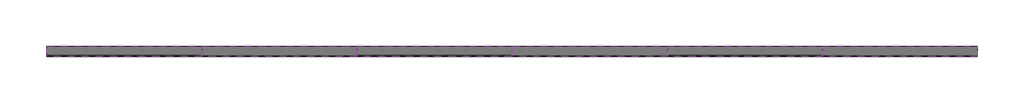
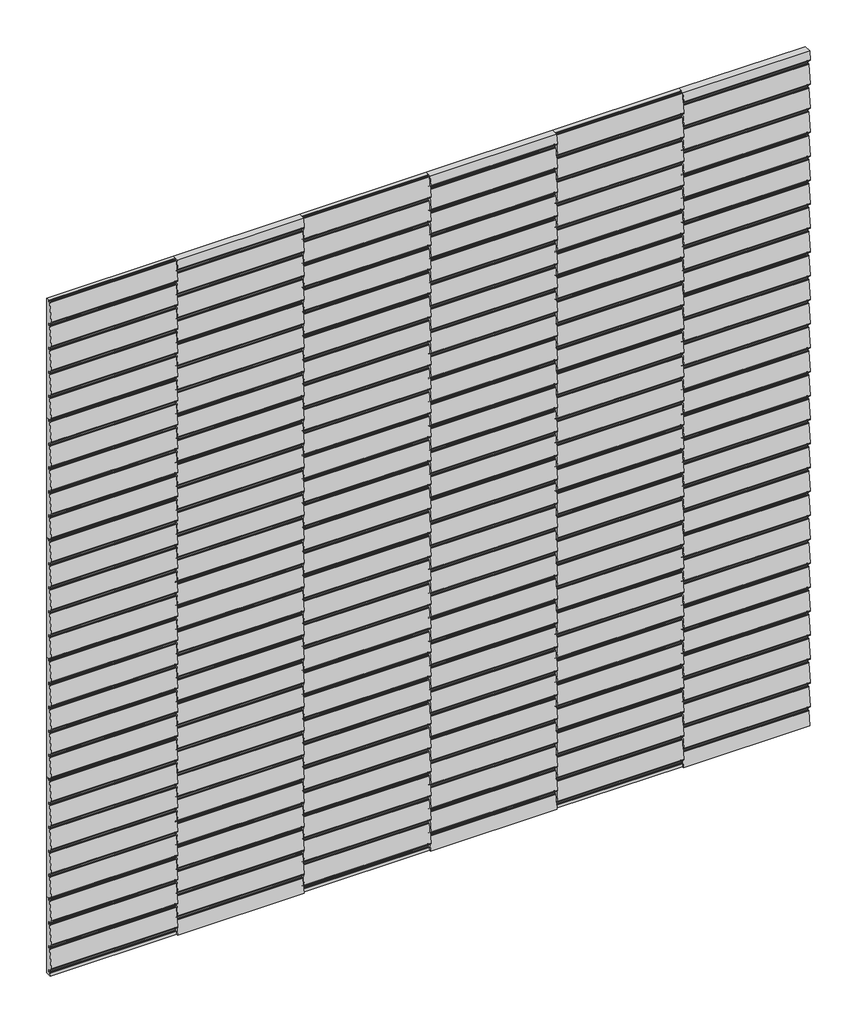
# One storey: 36 proxies.
"""IFC4 building model written with IfcOpenShell, lengths in millimetres."""

import ifcopenshell
import ifcopenshell.guid

model = None  # the IFC model being written
_history = None  # IfcOwnerHistory: only IFC2X3 demands one
_inside = {}  # id of a spatial element -> (the spatial element, [elements in it])
_under = {}  # id of a project, library or spatial element -> (it, [spatial elements below it])
_declared = {}  # id of a project -> (the project, [libraries it declares])
_typed = {}  # id of a type object -> (the type object, [elements of that type])
_made_of = {}  # id of a material, layer set ... -> (it, [elements and type objects made of it])


def new_model(schema):
    """Start an empty IFC model of exactly this schema.

    Asked for "IFC4X3", IfcOpenShell would pick the latest addendum, in which some entities
    have other attributes; the version numbers below select the first issue.
    IFC2X3 requires an IfcOwnerHistory on every rooted entity: one is made here for all.
    """
    global model, _history
    if schema == "IFC4X3":
        model = ifcopenshell.file(schema_version=(4, 3, 0, 0))
    else:
        model = ifcopenshell.file(schema=schema)
    _inside.clear()
    _under.clear()
    _declared.clear()
    _typed.clear()
    _made_of.clear()
    _history = None
    if model.schema == "IFC2X3":
        org = make("IfcOrganization", Name="unknown")
        user = make(
            "IfcPersonAndOrganization",
            ThePerson=make("IfcPerson", FamilyName="unknown"),
            TheOrganization=org,
        )
        app = make(
            "IfcApplication",
            ApplicationDeveloper=org,
            Version="unknown",
            ApplicationFullName="unknown",
            ApplicationIdentifier="unknown",
        )
        _history = make(
            "IfcOwnerHistory",
            OwningUser=user,
            OwningApplication=app,
            ChangeAction="ADDED",
            CreationDate=0,
        )
    return model


def make(cls, **values):
    """One entity of the class cls with the attributes given. An attribute that is None is left unset."""
    return model.create_entity(
        cls, **{name: value for name, value in values.items() if value is not None}
    )


def rooted(cls, **values):
    """An entity with a GlobalId (a new one), such as an element, a storey or a relation."""
    return make(cls, GlobalId=ifcopenshell.guid.new(), OwnerHistory=_history, **values)


def si_unit(unit_type, name, prefix=None):
    """IfcSIUnit, for example si_unit("LENGTHUNIT", "METRE", prefix="MILLI")."""
    return make("IfcSIUnit", UnitType=unit_type, Prefix=prefix, Name=name)


def assignment(units):
    """IfcUnitAssignment: the units of a project."""
    return None if units is None else make("IfcUnitAssignment", Units=units)


def point(xyz):
    """IfcCartesianPoint."""
    return None if xyz is None else make("IfcCartesianPoint", Coordinates=xyz)


def direction(xyz):
    """IfcDirection."""
    return None if xyz is None else make("IfcDirection", DirectionRatios=xyz)


def frame(location, z_axis=None, x_axis=None):
    """IfcAxis2Placement3D, a coordinate frame: its origin and axes. An axis left out is left unset."""
    return make(
        "IfcAxis2Placement3D",
        Location=point(location),
        Axis=direction(z_axis),
        RefDirection=direction(x_axis),
    )


def frame_2d(location, x_axis=None):
    """IfcAxis2Placement2D, a coordinate frame in the plane: its origin and x axis."""
    return make(
        "IfcAxis2Placement2D", Location=point(location), RefDirection=direction(x_axis)
    )


def origin():
    """The frame at (0, 0, 0) with its axes left unset."""
    return frame((0.0, 0.0, 0.0))


def place(relative_to, where):
    """IfcLocalPlacement: puts the frame where relative to a parent placement (None: the world)."""
    return make(
        "IfcLocalPlacement", PlacementRelTo=relative_to, RelativePlacement=where
    )


def context(
    kind, dimensions, precision=None, world=None, true_north=None, identifier=None
):
    """IfcGeometricRepresentationContext, for example the 3D "Model" context."""
    return make(
        "IfcGeometricRepresentationContext",
        ContextIdentifier=identifier,
        ContextType=kind,
        CoordinateSpaceDimension=dimensions,
        Precision=precision,
        WorldCoordinateSystem=world,
        TrueNorth=true_north,
    )


def project(units=None, contexts=None):
    """IfcProject with its units and contexts."""
    return rooted(
        "IfcProject",
        Name="project",
        RepresentationContexts=contexts,
        UnitsInContext=assignment(units),
    )


def spatial(cls, under=None, at=None, **own):
    """A site, building, storey or space (cls), placed at a placement, below another one or the project."""
    s = rooted(cls, ObjectPlacement=at, **own)
    if under is not None:
        _under.setdefault(under.id(), (under, []))[1].append(s)
    return s


def polyline(points):
    """IfcPolyline through the points."""
    return make("IfcPolyline", Points=[point(p) for p in points])


def circle_curve(where, radius):
    """IfcCircle in the frame where."""
    return make("IfcCircle", Position=where, Radius=radius)


def trimmed(basis, trim1, trim2, sense, master):
    """IfcTrimmedCurve: the piece of a basis curve between two trims."""
    return make(
        "IfcTrimmedCurve",
        BasisCurve=basis,
        Trim1=trim1,
        Trim2=trim2,
        SenseAgreement=sense,
        MasterRepresentation=master,
    )


def segment(curve, same_sense, transition):
    """IfcCompositeCurveSegment."""
    return make(
        "IfcCompositeCurveSegment",
        Transition=transition,
        SameSense=same_sense,
        ParentCurve=curve,
    )


def composite_curve(segments, self_intersect=None):
    """IfcCompositeCurve: segments joined end to end."""
    return make("IfcCompositeCurve", Segments=segments, SelfIntersect=self_intersect)


def outline(outer, holes=None, kind="AREA"):
    """IfcArbitraryClosedProfileDef: a profile drawn as a closed curve; with holes, ...WithVoids."""
    if holes is None:
        return make("IfcArbitraryClosedProfileDef", ProfileType=kind, OuterCurve=outer)
    return make(
        "IfcArbitraryProfileDefWithVoids",
        ProfileType=kind,
        OuterCurve=outer,
        InnerCurves=holes,
    )


def extrude(swept, where, along, depth):
    """IfcExtrudedAreaSolid: the profile swept, set in the frame where, extruded along a direction by depth."""
    return make(
        "IfcExtrudedAreaSolid",
        SweptArea=swept,
        Position=where,
        ExtrudedDirection=direction(along),
        Depth=depth,
    )


def shape(context_of_items, identifier, shape_type, items):
    """IfcShapeRepresentation: the items that make up one representation, for example the "Body"."""
    return make(
        "IfcShapeRepresentation",
        ContextOfItems=context_of_items,
        RepresentationIdentifier=identifier,
        RepresentationType=shape_type,
        Items=items,
    )


def source(mapping_origin, context_of_items, identifier, shape_type, items):
    """IfcRepresentationMap: a shape defined once, which mapped items show again and again."""
    return make(
        "IfcRepresentationMap",
        MappingOrigin=mapping_origin,
        MappedRepresentation=shape(context_of_items, identifier, shape_type, items),
    )


def transform(
    local_origin,
    x_axis=None,
    y_axis=None,
    z_axis=None,
    scale=None,
    scale2=None,
    scale3=None,
    uniform=True,
):
    """IfcCartesianTransformationOperator3D, or its non-uniform kind. x_axis, y_axis, z_axis: its Axis1, 2, 3."""
    if uniform:
        return make(
            "IfcCartesianTransformationOperator3D",
            Axis1=direction(x_axis),
            Axis2=direction(y_axis),
            LocalOrigin=point(local_origin),
            Scale=scale,
            Axis3=direction(z_axis),
        )
    return make(
        "IfcCartesianTransformationOperator3DnonUniform",
        Axis1=direction(x_axis),
        Axis2=direction(y_axis),
        LocalOrigin=point(local_origin),
        Scale=scale,
        Axis3=direction(z_axis),
        Scale2=scale2,
        Scale3=scale3,
    )


def mapped(mapping_source, mapping_target):
    """IfcMappedItem: shows the shape of a source again, moved by a transform."""
    return make(
        "IfcMappedItem", MappingSource=mapping_source, MappingTarget=mapping_target
    )


def made_of(thing, what):
    """Note that an element or type object is made of a material, layer set ...; save() writes the relation."""
    if what is not None:
        _made_of.setdefault(what.id(), (what, []))[1].append(thing)
    return thing


def element(
    cls,
    number,
    at=None,
    inside=None,
    cuts=None,
    type_object=None,
    material=None,
    context=None,
    identifier="Body",
    shape_type=None,
    held_by="IfcProductDefinitionShape",
    body=None,
    shapes=None,
    **own,
):
    """One element of the class cls, such as IfcWall. Its Tag is "e" and its number.

    at: its placement. inside: the storey or other place that contains it. cuts: it is an
    opening in that element (IfcRelVoidsElement). A single representation is given by context,
    identifier, shape_type and body (its items); several are given by shapes. held_by: the class
    of the entity that holds the representations. save() writes the other relations.
    """
    e = rooted(cls, Tag="e%d" % number, ObjectPlacement=at, **own)
    if body is not None:
        shapes = [shape(context, identifier, shape_type, body)]
    if shapes is not None:
        e.Representation = make(held_by, Representations=shapes)
    if inside is not None:
        _inside.setdefault(inside.id(), (inside, []))[1].append(e)
    if cuts is not None:
        rooted(
            "IfcRelVoidsElement", RelatingBuildingElement=cuts, RelatedOpeningElement=e
        )
    if type_object is not None:
        _typed.setdefault(type_object.id(), (type_object, []))[1].append(e)
    return made_of(e, material)


def aggregate(whole, parts):
    """IfcRelAggregates: a whole, such as a stair, and the parts it consists of."""
    return rooted("IfcRelAggregates", RelatingObject=whole, RelatedObjects=parts)


def save(model, path):
    """Write the relations noted so far, then the file.

    IfcRelAggregates (storeys below a building ...), IfcRelContainedInSpatialStructure (elements
    in a storey), IfcRelDefinesByType, IfcRelAssociatesMaterial and IfcRelDeclares: one each for
    every whole, place, type object, material and project.
    """
    for whole, parts in _under.values():
        aggregate(whole, parts)
    for where, things in _inside.values():
        rooted(
            "IfcRelContainedInSpatialStructure",
            RelatedElements=things,
            RelatingStructure=where,
        )
    for kind, things in _typed.values():
        rooted("IfcRelDefinesByType", RelatedObjects=things, RelatingType=kind)
    for what, things in _made_of.values():
        rooted("IfcRelAssociatesMaterial", RelatedObjects=things, RelatingMaterial=what)
    for by, libraries in _declared.values():
        rooted("IfcRelDeclares", RelatingContext=by, RelatedDefinitions=libraries)
    model.write(path)


def specialty_equipment_dc48855c(model_context):
    return source(origin(), model_context, "Body", "SweptSolid", [
        extrude(outline(composite_curve([segment(polyline([(0.0, -203.2), (0.0, 203.2), (12.5078125, 203.2)]), True, "CONTINUOUS"), segment(trimmed(circle_curve(frame_2d((12.5078125, 202.2078125)), 0.9921875), [point((12.5078125, 203.2))], [point((13.5, 202.2078125))], False, "CARTESIAN"), True, "CONTINUOUS"), segment(polyline([(13.5, 202.2078125), (13.5, 199.9465867)]), True, "CONTINUOUS"), segment(trimmed(circle_curve(frame_2d((14.4921875, 199.9465867)), 0.9921875), [point((13.5, 199.9465867))], [point((14.4921875, 198.9543992))], True, "CARTESIAN"), True, "CONTINUOUS"), segment(polyline([(14.4921875, 198.9543992), (17.1606187, 198.9543992)]), True, "CONTINUOUS"), segment(trimmed(circle_curve(frame_2d((17.1606187, 197.9749387)), 0.9794605), [point((17.1606187, 198.9543992))], [point((18.1109851, 198.2118916))], False, "CARTESIAN"), True, "CONTINUOUS"), segment(polyline([(18.1109851, 198.2118916), (26.76592, 136.6288293)]), True, "CONTINUOUS"), segment(trimmed(circle_curve(frame_2d((23.4253126, 136.1593376)), 3.3734375), [point((26.76592, 136.6288293))], [point((25.8106931, 133.773957))], False, "CARTESIAN"), True, "CONTINUOUS"), segment(polyline([(25.8106931, 133.773957), (18.5722569, 126.5355208)]), True, "CONTINUOUS"), segment(trimmed(circle_curve(frame_2d((17.6791911, 127.4285866)), 1.2629857), [point((18.5722569, 126.5355208))], [point((17.6791911, 126.1656008))], False, "CARTESIAN"), True, "CONTINUOUS"), segment(polyline([(17.6791911, 126.1656008), (14.4921875, 126.1656008)]), True, "CONTINUOUS"), segment(trimmed(circle_curve(frame_2d((14.4921875, 125.1734133)), 0.9921875), [point((14.4921875, 126.1656008))], [point((13.5, 125.1734133))], True, "CARTESIAN"), True, "CONTINUOUS"), segment(polyline([(13.5, 125.1734133), (13.5, 118.6665867)]), True, "CONTINUOUS"), segment(trimmed(circle_curve(frame_2d((14.4921875, 118.6665867)), 0.9921875), [point((13.5, 118.6665867))], [point((14.4921875, 117.6743992))], True, "CARTESIAN"), True, "CONTINUOUS"), segment(polyline([(14.4921875, 117.6743992), (17.1606187, 117.6743992)]), True, "CONTINUOUS"), segment(trimmed(circle_curve(frame_2d((17.1606187, 116.6949387)), 0.9794605), [point((17.1606187, 117.6743992))], [point((18.1109851, 116.9318916))], False, "CARTESIAN"), True, "CONTINUOUS"), segment(polyline([(18.1109851, 116.9318916), (26.76592, 55.3488293)]), True, "CONTINUOUS"), segment(trimmed(circle_curve(frame_2d((23.4253126, 54.8793376)), 3.3734375), [point((26.76592, 55.3488293))], [point((25.8106931, 52.493957))], False, "CARTESIAN"), True, "CONTINUOUS"), segment(polyline([(25.8106931, 52.493957), (18.5722569, 45.2555208)]), True, "CONTINUOUS"), segment(trimmed(circle_curve(frame_2d((17.6791911, 46.1485866)), 1.2629857), [point((18.5722569, 45.2555208))], [point((17.6791911, 44.8856008))], False, "CARTESIAN"), True, "CONTINUOUS"), segment(polyline([(17.6791911, 44.8856008), (14.4921875, 44.8856008)]), True, "CONTINUOUS"), segment(trimmed(circle_curve(frame_2d((14.4921875, 43.8934133)), 0.9921875), [point((14.4921875, 44.8856008))], [point((13.5, 43.8934133))], True, "CARTESIAN"), True, "CONTINUOUS"), segment(polyline([(13.5, 43.8934133), (13.5, 37.3865867)]), True, "CONTINUOUS"), segment(trimmed(circle_curve(frame_2d((14.4921875, 37.3865867)), 0.9921875), [point((13.5, 37.3865867))], [point((14.4921875, 36.3943992))], True, "CARTESIAN"), True, "CONTINUOUS"), segment(polyline([(14.4921875, 36.3943992), (17.1606187, 36.3943992)]), True, "CONTINUOUS"), segment(trimmed(circle_curve(frame_2d((17.1606187, 35.4149387)), 0.9794605), [point((17.1606187, 36.3943992))], [point((18.1109851, 35.6518916))], False, "CARTESIAN"), True, "CONTINUOUS"), segment(polyline([(18.1109851, 35.6518916), (26.76592, -25.9311707)]), True, "CONTINUOUS"), segment(trimmed(circle_curve(frame_2d((23.4253126, -26.4006624)), 3.3734375), [point((26.76592, -25.9311707))], [point((25.8106931, -28.786043))], False, "CARTESIAN"), True, "CONTINUOUS"), segment(polyline([(25.8106931, -28.786043), (18.5722569, -36.0244792)]), True, "CONTINUOUS"), segment(trimmed(circle_curve(frame_2d((17.6791911, -35.1314134)), 1.2629857), [point((18.5722569, -36.0244792))], [point((17.6791911, -36.3943992))], False, "CARTESIAN"), True, "CONTINUOUS"), segment(polyline([(17.6791911, -36.3943992), (14.4921875, -36.3943992)]), True, "CONTINUOUS"), segment(trimmed(circle_curve(frame_2d((14.4921875, -37.3865867)), 0.9921875), [point((14.4921875, -36.3943992))], [point((13.5, -37.3865867))], True, "CARTESIAN"), True, "CONTINUOUS"), segment(polyline([(13.5, -37.3865867), (13.5, -43.8934133)]), True, "CONTINUOUS"), segment(trimmed(circle_curve(frame_2d((14.4921875, -43.8934133)), 0.9921875), [point((13.5, -43.8934133))], [point((14.4921875, -44.8856008))], True, "CARTESIAN"), True, "CONTINUOUS"), segment(polyline([(14.4921875, -44.8856008), (17.1606187, -44.8856008)]), True, "CONTINUOUS"), segment(trimmed(circle_curve(frame_2d((17.1606187, -45.8650613)), 0.9794605), [point((17.1606187, -44.8856008))], [point((18.1109851, -45.6281084))], False, "CARTESIAN"), True, "CONTINUOUS"), segment(polyline([(18.1109851, -45.6281084), (26.76592, -107.2111707)]), True, "CONTINUOUS"), segment(trimmed(circle_curve(frame_2d((23.4253126, -107.6806624)), 3.3734375), [point((26.76592, -107.2111707))], [point((25.8106931, -110.066043))], False, "CARTESIAN"), True, "CONTINUOUS"), segment(polyline([(25.8106931, -110.066043), (18.5722569, -117.3044792)]), True, "CONTINUOUS"), segment(trimmed(circle_curve(frame_2d((17.6791911, -116.4114134)), 1.2629857), [point((18.5722569, -117.3044792))], [point((17.6791911, -117.6743992))], False, "CARTESIAN"), True, "CONTINUOUS"), segment(polyline([(17.6791911, -117.6743992), (14.4921875, -117.6743992)]), True, "CONTINUOUS"), segment(trimmed(circle_curve(frame_2d((14.4921875, -118.6665867)), 0.9921875), [point((14.4921875, -117.6743992))], [point((13.5, -118.6665867))], True, "CARTESIAN"), True, "CONTINUOUS"), segment(polyline([(13.5, -118.6665867), (13.5, -125.1734133)]), True, "CONTINUOUS"), segment(trimmed(circle_curve(frame_2d((14.4921875, -125.1734133)), 0.9921875), [point((13.5, -125.1734133))], [point((14.4921875, -126.1656008))], True, "CARTESIAN"), True, "CONTINUOUS"), segment(polyline([(14.4921875, -126.1656008), (17.1606187, -126.1656008)]), True, "CONTINUOUS"), segment(trimmed(circle_curve(frame_2d((17.1606187, -127.1450613)), 0.9794605), [point((17.1606187, -126.1656008))], [point((18.1109851, -126.9081084))], False, "CARTESIAN"), True, "CONTINUOUS"), segment(polyline([(18.1109851, -126.9081084), (26.76592, -188.4911707)]), True, "CONTINUOUS"), segment(trimmed(circle_curve(frame_2d((23.4253126, -188.9606624)), 3.3734375), [point((26.76592, -188.4911707))], [point((25.8106931, -191.346043))], False, "CARTESIAN"), True, "CONTINUOUS"), segment(polyline([(25.8106931, -191.346043), (18.5722569, -198.5844792)]), True, "CONTINUOUS"), segment(trimmed(circle_curve(frame_2d((17.6791911, -197.6914134)), 1.2629857), [point((18.5722569, -198.5844792))], [point((17.6791911, -198.9543992))], False, "CARTESIAN"), True, "CONTINUOUS"), segment(polyline([(17.6791911, -198.9543992), (14.4921875, -198.9543992)]), True, "CONTINUOUS"), segment(trimmed(circle_curve(frame_2d((14.4921875, -199.9465867)), 0.9921875), [point((14.4921875, -198.9543992))], [point((13.5, -199.9465867))], True, "CARTESIAN"), True, "CONTINUOUS"), segment(polyline([(13.5, -199.9465867), (13.5, -202.2078125)]), True, "CONTINUOUS"), segment(trimmed(circle_curve(frame_2d((12.5078125, -202.2078125)), 0.9921875), [point((13.5, -202.2078125))], [point((12.5078125, -203.2))], False, "CARTESIAN"), True, "CONTINUOUS"), segment(polyline([(12.5078125, -203.2), (0.0, -203.2)]), True, "CONTINUOUS")], self_intersect=False)), frame((0.0, -203.2, 0.0), z_axis=(0.0, 1.0, 0.0), x_axis=(0.0, 0.0, 1.0)), (0.0, 0.0, 1.0), 406.4),
    ])


def specialty_equipment_15079611(model_context):
    return source(origin(), model_context, "Body", "SweptSolid", [
        extrude(outline(composite_curve([segment(polyline([(0.0, -55.0128011), (0.0, 203.2), (12.5078125, 203.2)]), True, "CONTINUOUS"), segment(trimmed(circle_curve(frame_2d((12.5078125, 202.2078125)), 0.9921875), [point((12.5078125, 203.2))], [point((13.5, 202.2078125))], False, "CARTESIAN"), True, "CONTINUOUS"), segment(polyline([(13.5, 202.2078125), (13.5, 199.9465867)]), True, "CONTINUOUS"), segment(trimmed(circle_curve(frame_2d((14.4921875, 199.9465867)), 0.9921875), [point((13.5, 199.9465867))], [point((14.4921875, 198.9543992))], True, "CARTESIAN"), True, "CONTINUOUS"), segment(polyline([(14.4921875, 198.9543992), (17.1606187, 198.9543992)]), True, "CONTINUOUS"), segment(trimmed(circle_curve(frame_2d((17.1606187, 197.9749387)), 0.9794605), [point((17.1606187, 198.9543992))], [point((18.1109851, 198.2118916))], False, "CARTESIAN"), True, "CONTINUOUS"), segment(polyline([(18.1109851, 198.2118916), (26.76592, 136.6288293)]), True, "CONTINUOUS"), segment(trimmed(circle_curve(frame_2d((23.4253126, 136.1593376)), 3.3734375), [point((26.76592, 136.6288293))], [point((25.8106931, 133.773957))], False, "CARTESIAN"), True, "CONTINUOUS"), segment(polyline([(25.8106931, 133.773957), (18.5722569, 126.5355208)]), True, "CONTINUOUS"), segment(trimmed(circle_curve(frame_2d((17.6791911, 127.4285866)), 1.2629857), [point((18.5722569, 126.5355208))], [point((17.6791911, 126.1656008))], False, "CARTESIAN"), True, "CONTINUOUS"), segment(polyline([(17.6791911, 126.1656008), (14.4921875, 126.1656008)]), True, "CONTINUOUS"), segment(trimmed(circle_curve(frame_2d((14.4921875, 125.1734133)), 0.9921875), [point((14.4921875, 126.1656008))], [point((13.5, 125.1734133))], True, "CARTESIAN"), True, "CONTINUOUS"), segment(polyline([(13.5, 125.1734133), (13.5, 118.6665867)]), True, "CONTINUOUS"), segment(trimmed(circle_curve(frame_2d((14.4921875, 118.6665867)), 0.9921875), [point((13.5, 118.6665867))], [point((14.4921875, 117.6743992))], True, "CARTESIAN"), True, "CONTINUOUS"), segment(polyline([(14.4921875, 117.6743992), (17.1606187, 117.6743992)]), True, "CONTINUOUS"), segment(trimmed(circle_curve(frame_2d((17.1606187, 116.6949387)), 0.9794605), [point((17.1606187, 117.6743992))], [point((18.1109851, 116.9318916))], False, "CARTESIAN"), True, "CONTINUOUS"), segment(polyline([(18.1109851, 116.9318916), (26.76592, 55.3488293)]), True, "CONTINUOUS"), segment(trimmed(circle_curve(frame_2d((23.4253126, 54.8793376)), 3.3734375), [point((26.76592, 55.3488293))], [point((25.8106931, 52.493957))], False, "CARTESIAN"), True, "CONTINUOUS"), segment(polyline([(25.8106931, 52.493957), (18.5722569, 45.2555208)]), True, "CONTINUOUS"), segment(trimmed(circle_curve(frame_2d((17.6791911, 46.1485866)), 1.2629857), [point((18.5722569, 45.2555208))], [point((17.6791911, 44.8856008))], False, "CARTESIAN"), True, "CONTINUOUS"), segment(polyline([(17.6791911, 44.8856008), (14.4921875, 44.8856008)]), True, "CONTINUOUS"), segment(trimmed(circle_curve(frame_2d((14.4921875, 43.8934133)), 0.9921875), [point((14.4921875, 44.8856008))], [point((13.5, 43.8934133))], True, "CARTESIAN"), True, "CONTINUOUS"), segment(polyline([(13.5, 43.8934133), (13.5, 37.3865867)]), True, "CONTINUOUS"), segment(trimmed(circle_curve(frame_2d((14.4921875, 37.3865867)), 0.9921875), [point((13.5, 37.3865867))], [point((14.4921875, 36.3943992))], True, "CARTESIAN"), True, "CONTINUOUS"), segment(polyline([(14.4921875, 36.3943992), (17.1606187, 36.3943992)]), True, "CONTINUOUS"), segment(trimmed(circle_curve(frame_2d((17.1606187, 35.4149387)), 0.9794605), [point((17.1606187, 36.3943992))], [point((18.1109851, 35.6518916))], False, "CARTESIAN"), True, "CONTINUOUS"), segment(polyline([(18.1109851, 35.6518916), (26.76592, -25.9311707)]), True, "CONTINUOUS"), segment(trimmed(circle_curve(frame_2d((23.4253126, -26.4006624)), 3.3734375), [point((26.76592, -25.9311707))], [point((25.8106931, -28.786043))], False, "CARTESIAN"), True, "CONTINUOUS"), segment(polyline([(25.8106931, -28.786043), (18.5722569, -36.0244792)]), True, "CONTINUOUS"), segment(trimmed(circle_curve(frame_2d((17.6791911, -35.1314134)), 1.2629857), [point((18.5722569, -36.0244792))], [point((17.6791911, -36.3943992))], False, "CARTESIAN"), True, "CONTINUOUS"), segment(polyline([(17.6791911, -36.3943992), (14.4921875, -36.3943992)]), True, "CONTINUOUS"), segment(trimmed(circle_curve(frame_2d((14.4921875, -37.3865867)), 0.9921875), [point((14.4921875, -36.3943992))], [point((13.5, -37.3865867))], True, "CARTESIAN"), True, "CONTINUOUS"), segment(polyline([(13.5, -37.3865867), (13.5, -43.8934133)]), True, "CONTINUOUS"), segment(trimmed(circle_curve(frame_2d((14.4921875, -43.8934133)), 0.9921875), [point((13.5, -43.8934133))], [point((14.4921875, -44.8856008))], True, "CARTESIAN"), True, "CONTINUOUS"), segment(polyline([(14.4921875, -44.8856008), (17.1606187, -44.8856008)]), True, "CONTINUOUS"), segment(trimmed(circle_curve(frame_2d((17.1606187, -45.8650613)), 0.9794605), [point((17.1606187, -44.8856008))], [point((18.1109851, -45.6281084))], False, "CARTESIAN"), True, "CONTINUOUS"), segment(polyline([(18.1109851, -45.6281084), (19.4299176, -55.0128011), (0.0, -55.0128011)]), True, "CONTINUOUS")], self_intersect=False)), frame((0.0, -203.2, 0.0), z_axis=(0.0, 1.0, 0.0), x_axis=(0.0, 0.0, 1.0)), (0.0, 0.0, 1.0), 406.4),
    ])


def specialty_equipment_3cc16988(model_context):
    return source(origin(), model_context, "Body", "SweptSolid", [
        extrude(outline(composite_curve([segment(polyline([(0.0, -174.0753011), (0.0, 203.2), (12.5078125, 203.2)]), True, "CONTINUOUS"), segment(trimmed(circle_curve(frame_2d((12.5078125, 202.2078125)), 0.9921875), [point((12.5078125, 203.2))], [point((13.5, 202.2078125))], False, "CARTESIAN"), True, "CONTINUOUS"), segment(polyline([(13.5, 202.2078125), (13.5, 199.9465867)]), True, "CONTINUOUS"), segment(trimmed(circle_curve(frame_2d((14.4921875, 199.9465867)), 0.9921875), [point((13.5, 199.9465867))], [point((14.4921875, 198.9543992))], True, "CARTESIAN"), True, "CONTINUOUS"), segment(polyline([(14.4921875, 198.9543992), (17.1606187, 198.9543992)]), True, "CONTINUOUS"), segment(trimmed(circle_curve(frame_2d((17.1606187, 197.9749387)), 0.9794605), [point((17.1606187, 198.9543992))], [point((18.1109851, 198.2118916))], False, "CARTESIAN"), True, "CONTINUOUS"), segment(polyline([(18.1109851, 198.2118916), (26.76592, 136.6288293)]), True, "CONTINUOUS"), segment(trimmed(circle_curve(frame_2d((23.4253126, 136.1593376)), 3.3734375), [point((26.76592, 136.6288293))], [point((25.8106931, 133.773957))], False, "CARTESIAN"), True, "CONTINUOUS"), segment(polyline([(25.8106931, 133.773957), (18.5722569, 126.5355208)]), True, "CONTINUOUS"), segment(trimmed(circle_curve(frame_2d((17.6791911, 127.4285866)), 1.2629857), [point((18.5722569, 126.5355208))], [point((17.6791911, 126.1656008))], False, "CARTESIAN"), True, "CONTINUOUS"), segment(polyline([(17.6791911, 126.1656008), (14.4921875, 126.1656008)]), True, "CONTINUOUS"), segment(trimmed(circle_curve(frame_2d((14.4921875, 125.1734133)), 0.9921875), [point((14.4921875, 126.1656008))], [point((13.5, 125.1734133))], True, "CARTESIAN"), True, "CONTINUOUS"), segment(polyline([(13.5, 125.1734133), (13.5, 118.6665867)]), True, "CONTINUOUS"), segment(trimmed(circle_curve(frame_2d((14.4921875, 118.6665867)), 0.9921875), [point((13.5, 118.6665867))], [point((14.4921875, 117.6743992))], True, "CARTESIAN"), True, "CONTINUOUS"), segment(polyline([(14.4921875, 117.6743992), (17.1606187, 117.6743992)]), True, "CONTINUOUS"), segment(trimmed(circle_curve(frame_2d((17.1606187, 116.6949387)), 0.9794605), [point((17.1606187, 117.6743992))], [point((18.1109851, 116.9318916))], False, "CARTESIAN"), True, "CONTINUOUS"), segment(polyline([(18.1109851, 116.9318916), (26.76592, 55.3488293)]), True, "CONTINUOUS"), segment(trimmed(circle_curve(frame_2d((23.4253126, 54.8793376)), 3.3734375), [point((26.76592, 55.3488293))], [point((25.8106931, 52.493957))], False, "CARTESIAN"), True, "CONTINUOUS"), segment(polyline([(25.8106931, 52.493957), (18.5722569, 45.2555208)]), True, "CONTINUOUS"), segment(trimmed(circle_curve(frame_2d((17.6791911, 46.1485866)), 1.2629857), [point((18.5722569, 45.2555208))], [point((17.6791911, 44.8856008))], False, "CARTESIAN"), True, "CONTINUOUS"), segment(polyline([(17.6791911, 44.8856008), (14.4921875, 44.8856008)]), True, "CONTINUOUS"), segment(trimmed(circle_curve(frame_2d((14.4921875, 43.8934133)), 0.9921875), [point((14.4921875, 44.8856008))], [point((13.5, 43.8934133))], True, "CARTESIAN"), True, "CONTINUOUS"), segment(polyline([(13.5, 43.8934133), (13.5, 37.3865867)]), True, "CONTINUOUS"), segment(trimmed(circle_curve(frame_2d((14.4921875, 37.3865867)), 0.9921875), [point((13.5, 37.3865867))], [point((14.4921875, 36.3943992))], True, "CARTESIAN"), True, "CONTINUOUS"), segment(polyline([(14.4921875, 36.3943992), (17.1606187, 36.3943992)]), True, "CONTINUOUS"), segment(trimmed(circle_curve(frame_2d((17.1606187, 35.4149387)), 0.9794605), [point((17.1606187, 36.3943992))], [point((18.1109851, 35.6518916))], False, "CARTESIAN"), True, "CONTINUOUS"), segment(polyline([(18.1109851, 35.6518916), (26.76592, -25.9311707)]), True, "CONTINUOUS"), segment(trimmed(circle_curve(frame_2d((23.4253126, -26.4006624)), 3.3734375), [point((26.76592, -25.9311707))], [point((25.8106931, -28.786043))], False, "CARTESIAN"), True, "CONTINUOUS"), segment(polyline([(25.8106931, -28.786043), (18.5722569, -36.0244792)]), True, "CONTINUOUS"), segment(trimmed(circle_curve(frame_2d((17.6791911, -35.1314134)), 1.2629857), [point((18.5722569, -36.0244792))], [point((17.6791911, -36.3943992))], False, "CARTESIAN"), True, "CONTINUOUS"), segment(polyline([(17.6791911, -36.3943992), (14.4921875, -36.3943992)]), True, "CONTINUOUS"), segment(trimmed(circle_curve(frame_2d((14.4921875, -37.3865867)), 0.9921875), [point((14.4921875, -36.3943992))], [point((13.5, -37.3865867))], True, "CARTESIAN"), True, "CONTINUOUS"), segment(polyline([(13.5, -37.3865867), (13.5, -43.8934133)]), True, "CONTINUOUS"), segment(trimmed(circle_curve(frame_2d((14.4921875, -43.8934133)), 0.9921875), [point((13.5, -43.8934133))], [point((14.4921875, -44.8856008))], True, "CARTESIAN"), True, "CONTINUOUS"), segment(polyline([(14.4921875, -44.8856008), (17.1606187, -44.8856008)]), True, "CONTINUOUS"), segment(trimmed(circle_curve(frame_2d((17.1606187, -45.8650613)), 0.9794605), [point((17.1606187, -44.8856008))], [point((18.1109851, -45.6281084))], False, "CARTESIAN"), True, "CONTINUOUS"), segment(polyline([(18.1109851, -45.6281084), (26.76592, -107.2111707)]), True, "CONTINUOUS"), segment(trimmed(circle_curve(frame_2d((23.4253126, -107.6806624)), 3.3734375), [point((26.76592, -107.2111707))], [point((25.8106931, -110.066043))], False, "CARTESIAN"), True, "CONTINUOUS"), segment(polyline([(25.8106931, -110.066043), (18.5722569, -117.3044792)]), True, "CONTINUOUS"), segment(trimmed(circle_curve(frame_2d((17.6791911, -116.4114134)), 1.2629857), [point((18.5722569, -117.3044792))], [point((17.6791911, -117.6743992))], False, "CARTESIAN"), True, "CONTINUOUS"), segment(polyline([(17.6791911, -117.6743992), (14.4921875, -117.6743992)]), True, "CONTINUOUS"), segment(trimmed(circle_curve(frame_2d((14.4921875, -118.6665867)), 0.9921875), [point((14.4921875, -117.6743992))], [point((13.5, -118.6665867))], True, "CARTESIAN"), True, "CONTINUOUS"), segment(polyline([(13.5, -118.6665867), (13.5, -125.1734133)]), True, "CONTINUOUS"), segment(trimmed(circle_curve(frame_2d((14.4921875, -125.1734133)), 0.9921875), [point((13.5, -125.1734133))], [point((14.4921875, -126.1656008))], True, "CARTESIAN"), True, "CONTINUOUS"), segment(polyline([(14.4921875, -126.1656008), (17.1606187, -126.1656008)]), True, "CONTINUOUS"), segment(trimmed(circle_curve(frame_2d((17.1606187, -127.1450613)), 0.9794605), [point((17.1606187, -126.1656008))], [point((18.1109851, -126.9081084))], False, "CARTESIAN"), True, "CONTINUOUS"), segment(polyline([(18.1109851, -126.9081084), (24.7399017, -174.0753011), (0.0, -174.0753011)]), True, "CONTINUOUS")], self_intersect=False)), frame((0.0, -203.2, 0.0), z_axis=(0.0, 1.0, 0.0), x_axis=(0.0, 0.0, 1.0)), (0.0, 0.0, 1.0), 406.4),
    ])


def specialty_equipment_e988f940(model_context):
    return source(origin(), model_context, "Body", "SweptSolid", [
        extrude(outline(composite_curve([segment(polyline([(0.0, -203.2), (0.0, 84.1375), (22.7199362, 84.1375), (26.76592, 55.3488293)]), True, "CONTINUOUS"), segment(trimmed(circle_curve(frame_2d((23.4253126, 54.8793376)), 3.3734375), [point((26.76592, 55.3488293))], [point((25.8106931, 52.493957))], False, "CARTESIAN"), True, "CONTINUOUS"), segment(polyline([(25.8106931, 52.493957), (18.5722569, 45.2555208)]), True, "CONTINUOUS"), segment(trimmed(circle_curve(frame_2d((17.6791911, 46.1485866)), 1.2629857), [point((18.5722569, 45.2555208))], [point((17.6791911, 44.8856008))], False, "CARTESIAN"), True, "CONTINUOUS"), segment(polyline([(17.6791911, 44.8856008), (14.4921875, 44.8856008)]), True, "CONTINUOUS"), segment(trimmed(circle_curve(frame_2d((14.4921875, 43.8934133)), 0.9921875), [point((14.4921875, 44.8856008))], [point((13.5, 43.8934133))], True, "CARTESIAN"), True, "CONTINUOUS"), segment(polyline([(13.5, 43.8934133), (13.5, 37.3865867)]), True, "CONTINUOUS"), segment(trimmed(circle_curve(frame_2d((14.4921875, 37.3865867)), 0.9921875), [point((13.5, 37.3865867))], [point((14.4921875, 36.3943992))], True, "CARTESIAN"), True, "CONTINUOUS"), segment(polyline([(14.4921875, 36.3943992), (17.1606187, 36.3943992)]), True, "CONTINUOUS"), segment(trimmed(circle_curve(frame_2d((17.1606187, 35.4149387)), 0.9794605), [point((17.1606187, 36.3943992))], [point((18.1109851, 35.6518916))], False, "CARTESIAN"), True, "CONTINUOUS"), segment(polyline([(18.1109851, 35.6518916), (26.76592, -25.9311707)]), True, "CONTINUOUS"), segment(trimmed(circle_curve(frame_2d((23.4253126, -26.4006624)), 3.3734375), [point((26.76592, -25.9311707))], [point((25.8106931, -28.786043))], False, "CARTESIAN"), True, "CONTINUOUS"), segment(polyline([(25.8106931, -28.786043), (18.5722569, -36.0244792)]), True, "CONTINUOUS"), segment(trimmed(circle_curve(frame_2d((17.6791911, -35.1314134)), 1.2629857), [point((18.5722569, -36.0244792))], [point((17.6791911, -36.3943992))], False, "CARTESIAN"), True, "CONTINUOUS"), segment(polyline([(17.6791911, -36.3943992), (14.4921875, -36.3943992)]), True, "CONTINUOUS"), segment(trimmed(circle_curve(frame_2d((14.4921875, -37.3865867)), 0.9921875), [point((14.4921875, -36.3943992))], [point((13.5, -37.3865867))], True, "CARTESIAN"), True, "CONTINUOUS"), segment(polyline([(13.5, -37.3865867), (13.5, -43.8934133)]), True, "CONTINUOUS"), segment(trimmed(circle_curve(frame_2d((14.4921875, -43.8934133)), 0.9921875), [point((13.5, -43.8934133))], [point((14.4921875, -44.8856008))], True, "CARTESIAN"), True, "CONTINUOUS"), segment(polyline([(14.4921875, -44.8856008), (17.1606187, -44.8856008)]), True, "CONTINUOUS"), segment(trimmed(circle_curve(frame_2d((17.1606187, -45.8650613)), 0.9794605), [point((17.1606187, -44.8856008))], [point((18.1109851, -45.6281084))], False, "CARTESIAN"), True, "CONTINUOUS"), segment(polyline([(18.1109851, -45.6281084), (26.76592, -107.2111707)]), True, "CONTINUOUS"), segment(trimmed(circle_curve(frame_2d((23.4253126, -107.6806624)), 3.3734375), [point((26.76592, -107.2111707))], [point((25.8106931, -110.066043))], False, "CARTESIAN"), True, "CONTINUOUS"), segment(polyline([(25.8106931, -110.066043), (18.5722569, -117.3044792)]), True, "CONTINUOUS"), segment(trimmed(circle_curve(frame_2d((17.6791911, -116.4114134)), 1.2629857), [point((18.5722569, -117.3044792))], [point((17.6791911, -117.6743992))], False, "CARTESIAN"), True, "CONTINUOUS"), segment(polyline([(17.6791911, -117.6743992), (14.4921875, -117.6743992)]), True, "CONTINUOUS"), segment(trimmed(circle_curve(frame_2d((14.4921875, -118.6665867)), 0.9921875), [point((14.4921875, -117.6743992))], [point((13.5, -118.6665867))], True, "CARTESIAN"), True, "CONTINUOUS"), segment(polyline([(13.5, -118.6665867), (13.5, -125.1734133)]), True, "CONTINUOUS"), segment(trimmed(circle_curve(frame_2d((14.4921875, -125.1734133)), 0.9921875), [point((13.5, -125.1734133))], [point((14.4921875, -126.1656008))], True, "CARTESIAN"), True, "CONTINUOUS"), segment(polyline([(14.4921875, -126.1656008), (17.1606187, -126.1656008)]), True, "CONTINUOUS"), segment(trimmed(circle_curve(frame_2d((17.1606187, -127.1450613)), 0.9794605), [point((17.1606187, -126.1656008))], [point((18.1109851, -126.9081084))], False, "CARTESIAN"), True, "CONTINUOUS"), segment(polyline([(18.1109851, -126.9081084), (26.76592, -188.4911707)]), True, "CONTINUOUS"), segment(trimmed(circle_curve(frame_2d((23.4253126, -188.9606624)), 3.3734375), [point((26.76592, -188.4911707))], [point((25.8106931, -191.346043))], False, "CARTESIAN"), True, "CONTINUOUS"), segment(polyline([(25.8106931, -191.346043), (18.5722569, -198.5844792)]), True, "CONTINUOUS"), segment(trimmed(circle_curve(frame_2d((17.6791911, -197.6914134)), 1.2629857), [point((18.5722569, -198.5844792))], [point((17.6791911, -198.9543992))], False, "CARTESIAN"), True, "CONTINUOUS"), segment(polyline([(17.6791911, -198.9543992), (14.4921875, -198.9543992)]), True, "CONTINUOUS"), segment(trimmed(circle_curve(frame_2d((14.4921875, -199.9465867)), 0.9921875), [point((14.4921875, -198.9543992))], [point((13.5, -199.9465867))], True, "CARTESIAN"), True, "CONTINUOUS"), segment(polyline([(13.5, -199.9465867), (13.5, -202.2078125)]), True, "CONTINUOUS"), segment(trimmed(circle_curve(frame_2d((12.5078125, -202.2078125)), 0.9921875), [point((13.5, -202.2078125))], [point((12.5078125, -203.2))], False, "CARTESIAN"), True, "CONTINUOUS"), segment(polyline([(12.5078125, -203.2), (0.0, -203.2)]), True, "CONTINUOUS")], self_intersect=False)), frame((0.0, -203.2, 0.0), z_axis=(0.0, 1.0, 0.0), x_axis=(0.0, 0.0, 1.0)), (0.0, 0.0, 1.0), 406.4),
    ])


model = new_model("IFC4")

# Units and contexts
model_context = context("Model", 3, world=origin())
ifc_project = project(units=[si_unit("LENGTHUNIT", "METRE", prefix="MILLI")], contexts=[model_context])

# Site, building, storey
site = spatial("IfcSite", under=ifc_project)
building = spatial("IfcBuilding", under=site)
storey = spatial("IfcBuildingStorey", under=building, Name="Nível 1", Elevation=0.0)

# Proxies
placement = place(None, origin())
specialty_equipment_shape = specialty_equipment_dc48855c(model_context)
element("IfcBuildingElementProxy", 1, Name="Spinneybeck_Porto 3 : Porto 3", ObjectType="Spinneybeck_Porto 3 : Porto 3", at=placement, inside=storey, context=model_context, shape_type="MappedRepresentation", body=[
    mapped(specialty_equipment_shape, transform((-3406.4383737, 552.5357437, 461.4128011), x_axis=(0.0, 0.0, 1.0), y_axis=(-1.0, 0.0, 0.0), z_axis=(0.0, -1.0, 0.0))),
])
element("IfcBuildingElementProxy", 2, Name="Spinneybeck_Porto 3 : Porto 3", ObjectType="Spinneybeck_Porto 3 : Porto 3", at=placement, inside=storey, context=model_context, shape_type="MappedRepresentation", body=[
    mapped(specialty_equipment_shape, transform((-3406.4383737, 552.5357437, 867.8128011), x_axis=(0.0, 0.0, 1.0), y_axis=(-1.0, 0.0, 0.0), z_axis=(0.0, -1.0, 0.0))),
])
element("IfcBuildingElementProxy", 3, Name="Spinneybeck_Porto 3 : Porto 3", ObjectType="Spinneybeck_Porto 3 : Porto 3", at=placement, inside=storey, context=model_context, shape_type="MappedRepresentation", body=[
    mapped(specialty_equipment_shape, transform((-3406.4383737, 552.5357437, 1274.2128011), x_axis=(0.0, 0.0, 1.0), y_axis=(-1.0, 0.0, 0.0), z_axis=(0.0, -1.0, 0.0))),
])
element("IfcBuildingElementProxy", 4, Name="Spinneybeck_Porto 3 : Porto 3", ObjectType="Spinneybeck_Porto 3 : Porto 3", at=placement, inside=storey, context=model_context, shape_type="MappedRepresentation", body=[
    mapped(specialty_equipment_shape, transform((-3406.4383737, 552.5357437, 1680.6128011), x_axis=(0.0, 0.0, 1.0), y_axis=(-1.0, 0.0, 0.0), z_axis=(0.0, -1.0, 0.0))),
])
element("IfcBuildingElementProxy", 5, Name="Spinneybeck_Porto 3 : Porto 3", ObjectType="Spinneybeck_Porto 3 : Porto 3", at=placement, inside=storey, context=model_context, shape_type="MappedRepresentation", body=[
    mapped(specialty_equipment_shape, transform((-3406.4383737, 552.5357437, 2087.0128011), x_axis=(0.0, 0.0, 1.0), y_axis=(-1.0, 0.0, 0.0), z_axis=(0.0, -1.0, 0.0))),
])
element("IfcBuildingElementProxy", 6, Name="Spinneybeck_Porto 3 : Porto 3", ObjectType="Spinneybeck_Porto 3 : Porto 3", at=placement, inside=storey, context=model_context, shape_type="MappedRepresentation", body=[
    mapped(specialty_equipment_shape, transform((-3000.0383737, 552.5357437, 580.4753011), x_axis=(0.0, 0.0, 1.0), y_axis=(-1.0, 0.0, 0.0), z_axis=(0.0, -1.0, 0.0))),
])
element("IfcBuildingElementProxy", 7, Name="Spinneybeck_Porto 3 : Porto 3", ObjectType="Spinneybeck_Porto 3 : Porto 3", at=placement, inside=storey, context=model_context, shape_type="MappedRepresentation", body=[
    mapped(specialty_equipment_shape, transform((-3000.0383737, 552.5357437, 986.8753011), x_axis=(0.0, 0.0, 1.0), y_axis=(-1.0, 0.0, 0.0), z_axis=(0.0, -1.0, 0.0))),
])
element("IfcBuildingElementProxy", 8, Name="Spinneybeck_Porto 3 : Porto 3", ObjectType="Spinneybeck_Porto 3 : Porto 3", at=placement, inside=storey, context=model_context, shape_type="MappedRepresentation", body=[
    mapped(specialty_equipment_shape, transform((-3000.0383737, 552.5357437, 1393.2753011), x_axis=(0.0, 0.0, 1.0), y_axis=(-1.0, 0.0, 0.0), z_axis=(0.0, -1.0, 0.0))),
])
element("IfcBuildingElementProxy", 9, Name="Spinneybeck_Porto 3 : Porto 3", ObjectType="Spinneybeck_Porto 3 : Porto 3", at=placement, inside=storey, context=model_context, shape_type="MappedRepresentation", body=[
    mapped(specialty_equipment_shape, transform((-3000.0383737, 552.5357437, 1799.6753011), x_axis=(0.0, 0.0, 1.0), y_axis=(-1.0, 0.0, 0.0), z_axis=(0.0, -1.0, 0.0))),
])
element("IfcBuildingElementProxy", 10, Name="Spinneybeck_Porto 3 : Porto 3", ObjectType="Spinneybeck_Porto 3 : Porto 3", at=placement, inside=storey, context=model_context, shape_type="MappedRepresentation", body=[
    mapped(specialty_equipment_shape, transform((-2593.6383737, 552.5357437, 461.4128011), x_axis=(0.0, 0.0, 1.0), y_axis=(-1.0, 0.0, 0.0), z_axis=(0.0, -1.0, 0.0))),
])
element("IfcBuildingElementProxy", 11, Name="Spinneybeck_Porto 3 : Porto 3", ObjectType="Spinneybeck_Porto 3 : Porto 3", at=placement, inside=storey, context=model_context, shape_type="MappedRepresentation", body=[
    mapped(specialty_equipment_shape, transform((-2593.6383737, 552.5357437, 867.8128011), x_axis=(0.0, 0.0, 1.0), y_axis=(-1.0, 0.0, 0.0), z_axis=(0.0, -1.0, 0.0))),
])
element("IfcBuildingElementProxy", 12, Name="Spinneybeck_Porto 3 : Porto 3", ObjectType="Spinneybeck_Porto 3 : Porto 3", at=placement, inside=storey, context=model_context, shape_type="MappedRepresentation", body=[
    mapped(specialty_equipment_shape, transform((-2593.6383737, 552.5357437, 1274.2128011), x_axis=(0.0, 0.0, 1.0), y_axis=(-1.0, 0.0, 0.0), z_axis=(0.0, -1.0, 0.0))),
])
element("IfcBuildingElementProxy", 13, Name="Spinneybeck_Porto 3 : Porto 3", ObjectType="Spinneybeck_Porto 3 : Porto 3", at=placement, inside=storey, context=model_context, shape_type="MappedRepresentation", body=[
    mapped(specialty_equipment_shape, transform((-2593.6383737, 552.5357437, 1680.6128011), x_axis=(0.0, 0.0, 1.0), y_axis=(-1.0, 0.0, 0.0), z_axis=(0.0, -1.0, 0.0))),
])
element("IfcBuildingElementProxy", 14, Name="Spinneybeck_Porto 3 : Porto 3", ObjectType="Spinneybeck_Porto 3 : Porto 3", at=placement, inside=storey, context=model_context, shape_type="MappedRepresentation", body=[
    mapped(specialty_equipment_shape, transform((-2593.6383737, 552.5357437, 2087.0128011), x_axis=(0.0, 0.0, 1.0), y_axis=(-1.0, 0.0, 0.0), z_axis=(0.0, -1.0, 0.0))),
])
element("IfcBuildingElementProxy", 15, Name="Spinneybeck_Porto 3 : Porto 3", ObjectType="Spinneybeck_Porto 3 : Porto 3", at=placement, inside=storey, context=model_context, shape_type="MappedRepresentation", body=[
    mapped(specialty_equipment_shape, transform((-2187.2383737, 552.5357437, 580.4753011), x_axis=(0.0, 0.0, 1.0), y_axis=(-1.0, 0.0, 0.0), z_axis=(0.0, -1.0, 0.0))),
])
element("IfcBuildingElementProxy", 16, Name="Spinneybeck_Porto 3 : Porto 3", ObjectType="Spinneybeck_Porto 3 : Porto 3", at=placement, inside=storey, context=model_context, shape_type="MappedRepresentation", body=[
    mapped(specialty_equipment_shape, transform((-2187.2383737, 552.5357437, 986.8753011), x_axis=(0.0, 0.0, 1.0), y_axis=(-1.0, 0.0, 0.0), z_axis=(0.0, -1.0, 0.0))),
])
element("IfcBuildingElementProxy", 17, Name="Spinneybeck_Porto 3 : Porto 3", ObjectType="Spinneybeck_Porto 3 : Porto 3", at=placement, inside=storey, context=model_context, shape_type="MappedRepresentation", body=[
    mapped(specialty_equipment_shape, transform((-2187.2383737, 552.5357437, 1393.2753011), x_axis=(0.0, 0.0, 1.0), y_axis=(-1.0, 0.0, 0.0), z_axis=(0.0, -1.0, 0.0))),
])
element("IfcBuildingElementProxy", 18, Name="Spinneybeck_Porto 3 : Porto 3", ObjectType="Spinneybeck_Porto 3 : Porto 3", at=placement, inside=storey, context=model_context, shape_type="MappedRepresentation", body=[
    mapped(specialty_equipment_shape, transform((-2187.2383737, 552.5357437, 1799.6753011), x_axis=(0.0, 0.0, 1.0), y_axis=(-1.0, 0.0, 0.0), z_axis=(0.0, -1.0, 0.0))),
])
element("IfcBuildingElementProxy", 19, Name="Spinneybeck_Porto 3 : Porto 3", ObjectType="Spinneybeck_Porto 3 : Porto 3", at=placement, inside=storey, context=model_context, shape_type="MappedRepresentation", body=[
    mapped(specialty_equipment_shape, transform((-1780.8383737, 552.5357437, 461.4128011), x_axis=(0.0, 0.0, 1.0), y_axis=(-1.0, 0.0, 0.0), z_axis=(0.0, -1.0, 0.0))),
])
element("IfcBuildingElementProxy", 20, Name="Spinneybeck_Porto 3 : Porto 3", ObjectType="Spinneybeck_Porto 3 : Porto 3", at=placement, inside=storey, context=model_context, shape_type="MappedRepresentation", body=[
    mapped(specialty_equipment_shape, transform((-1780.8383737, 552.5357437, 867.8128011), x_axis=(0.0, 0.0, 1.0), y_axis=(-1.0, 0.0, 0.0), z_axis=(0.0, -1.0, 0.0))),
])
element("IfcBuildingElementProxy", 21, Name="Spinneybeck_Porto 3 : Porto 3", ObjectType="Spinneybeck_Porto 3 : Porto 3", at=placement, inside=storey, context=model_context, shape_type="MappedRepresentation", body=[
    mapped(specialty_equipment_shape, transform((-1780.8383737, 552.5357437, 1274.2128011), x_axis=(0.0, 0.0, 1.0), y_axis=(-1.0, 0.0, 0.0), z_axis=(0.0, -1.0, 0.0))),
])
element("IfcBuildingElementProxy", 22, Name="Spinneybeck_Porto 3 : Porto 3", ObjectType="Spinneybeck_Porto 3 : Porto 3", at=placement, inside=storey, context=model_context, shape_type="MappedRepresentation", body=[
    mapped(specialty_equipment_shape, transform((-1780.8383737, 552.5357437, 1680.6128011), x_axis=(0.0, 0.0, 1.0), y_axis=(-1.0, 0.0, 0.0), z_axis=(0.0, -1.0, 0.0))),
])
element("IfcBuildingElementProxy", 23, Name="Spinneybeck_Porto 3 : Porto 3", ObjectType="Spinneybeck_Porto 3 : Porto 3", at=placement, inside=storey, context=model_context, shape_type="MappedRepresentation", body=[
    mapped(specialty_equipment_shape, transform((-1780.8383737, 552.5357437, 2087.0128011), x_axis=(0.0, 0.0, 1.0), y_axis=(-1.0, 0.0, 0.0), z_axis=(0.0, -1.0, 0.0))),
])
element("IfcBuildingElementProxy", 24, Name="Spinneybeck_Porto 3 : Porto 3", ObjectType="Spinneybeck_Porto 3 : Porto 3", at=placement, inside=storey, context=model_context, shape_type="MappedRepresentation", body=[
    mapped(specialty_equipment_shape, transform((-1374.4383737, 552.5357437, 580.4753011), x_axis=(0.0, 0.0, 1.0), y_axis=(-1.0, 0.0, 0.0), z_axis=(0.0, -1.0, 0.0))),
])
element("IfcBuildingElementProxy", 25, Name="Spinneybeck_Porto 3 : Porto 3", ObjectType="Spinneybeck_Porto 3 : Porto 3", at=placement, inside=storey, context=model_context, shape_type="MappedRepresentation", body=[
    mapped(specialty_equipment_shape, transform((-1374.4383737, 552.5357437, 986.8753011), x_axis=(0.0, 0.0, 1.0), y_axis=(-1.0, 0.0, 0.0), z_axis=(0.0, -1.0, 0.0))),
])
element("IfcBuildingElementProxy", 26, Name="Spinneybeck_Porto 3 : Porto 3", ObjectType="Spinneybeck_Porto 3 : Porto 3", at=placement, inside=storey, context=model_context, shape_type="MappedRepresentation", body=[
    mapped(specialty_equipment_shape, transform((-1374.4383737, 552.5357437, 1393.2753011), x_axis=(0.0, 0.0, 1.0), y_axis=(-1.0, 0.0, 0.0), z_axis=(0.0, -1.0, 0.0))),
])
element("IfcBuildingElementProxy", 27, Name="Spinneybeck_Porto 3 : Porto 3", ObjectType="Spinneybeck_Porto 3 : Porto 3", at=placement, inside=storey, context=model_context, shape_type="MappedRepresentation", body=[
    mapped(specialty_equipment_shape, transform((-1374.4383737, 552.5357437, 1799.6753011), x_axis=(0.0, 0.0, 1.0), y_axis=(-1.0, 0.0, 0.0), z_axis=(0.0, -1.0, 0.0))),
])
specialty_equipment_2_shape = specialty_equipment_15079611(model_context)
element("IfcBuildingElementProxy", 28, Name="Spinneybeck_Porto 3 : Porto 3", ObjectType="Spinneybeck_Porto 3 : Porto 3", at=placement, inside=storey, context=model_context, shape_type="MappedRepresentation", body=[
    mapped(specialty_equipment_2_shape, transform((-3406.4383737, 552.5357437, 55.0128011), x_axis=(0.0, 0.0, 1.0), y_axis=(-1.0, 0.0, 0.0), z_axis=(0.0, -1.0, 0.0))),
])
element("IfcBuildingElementProxy", 29, Name="Spinneybeck_Porto 3 : Porto 3", ObjectType="Spinneybeck_Porto 3 : Porto 3", at=placement, inside=storey, context=model_context, shape_type="MappedRepresentation", body=[
    mapped(specialty_equipment_2_shape, transform((-2593.6383737, 552.5357437, 55.0128011), x_axis=(0.0, 0.0, 1.0), y_axis=(-1.0, 0.0, 0.0), z_axis=(0.0, -1.0, 0.0))),
])
element("IfcBuildingElementProxy", 30, Name="Spinneybeck_Porto 3 : Porto 3", ObjectType="Spinneybeck_Porto 3 : Porto 3", at=placement, inside=storey, context=model_context, shape_type="MappedRepresentation", body=[
    mapped(specialty_equipment_2_shape, transform((-1780.8383737, 552.5357437, 55.0128011), x_axis=(0.0, 0.0, 1.0), y_axis=(-1.0, 0.0, 0.0), z_axis=(0.0, -1.0, 0.0))),
])
specialty_equipment_3_shape = specialty_equipment_3cc16988(model_context)
element("IfcBuildingElementProxy", 31, Name="Spinneybeck_Porto 3 : Porto 3", ObjectType="Spinneybeck_Porto 3 : Porto 3", at=placement, inside=storey, context=model_context, shape_type="MappedRepresentation", body=[
    mapped(specialty_equipment_3_shape, transform((-3000.0383737, 552.5357437, 174.0753011), x_axis=(0.0, 0.0, 1.0), y_axis=(-1.0, 0.0, 0.0), z_axis=(0.0, -1.0, 0.0))),
])
element("IfcBuildingElementProxy", 32, Name="Spinneybeck_Porto 3 : Porto 3", ObjectType="Spinneybeck_Porto 3 : Porto 3", at=placement, inside=storey, context=model_context, shape_type="MappedRepresentation", body=[
    mapped(specialty_equipment_3_shape, transform((-2187.2383737, 552.5357437, 174.0753011), x_axis=(0.0, 0.0, 1.0), y_axis=(-1.0, 0.0, 0.0), z_axis=(0.0, -1.0, 0.0))),
])
element("IfcBuildingElementProxy", 33, Name="Spinneybeck_Porto 3 : Porto 3", ObjectType="Spinneybeck_Porto 3 : Porto 3", at=placement, inside=storey, context=model_context, shape_type="MappedRepresentation", body=[
    mapped(specialty_equipment_3_shape, transform((-1374.4383737, 552.5357437, 174.0753011), x_axis=(0.0, 0.0, 1.0), y_axis=(-1.0, 0.0, 0.0), z_axis=(0.0, -1.0, 0.0))),
])
specialty_equipment_4_shape = specialty_equipment_e988f940(model_context)
element("IfcBuildingElementProxy", 34, Name="Spinneybeck_Porto 3 : Porto 3", ObjectType="Spinneybeck_Porto 3 : Porto 3", at=placement, inside=storey, context=model_context, shape_type="MappedRepresentation", body=[
    mapped(specialty_equipment_4_shape, transform((-3000.0383737, 552.5357437, 2206.0753011), x_axis=(0.0, 0.0, 1.0), y_axis=(-1.0, 0.0, 0.0), z_axis=(0.0, -1.0, 0.0))),
])
element("IfcBuildingElementProxy", 35, Name="Spinneybeck_Porto 3 : Porto 3", ObjectType="Spinneybeck_Porto 3 : Porto 3", at=placement, inside=storey, context=model_context, shape_type="MappedRepresentation", body=[
    mapped(specialty_equipment_4_shape, transform((-2187.2383737, 552.5357437, 2206.0753011), x_axis=(0.0, 0.0, 1.0), y_axis=(-1.0, 0.0, 0.0), z_axis=(0.0, -1.0, 0.0))),
])
element("IfcBuildingElementProxy", 36, Name="Spinneybeck_Porto 3 : Porto 3", ObjectType="Spinneybeck_Porto 3 : Porto 3", at=placement, inside=storey, context=model_context, shape_type="MappedRepresentation", body=[
    mapped(specialty_equipment_4_shape, transform((-1374.4383737, 552.5357437, 2206.0753011), x_axis=(0.0, 0.0, 1.0), y_axis=(-1.0, 0.0, 0.0), z_axis=(0.0, -1.0, 0.0))),
])

save(model, "model.ifc")
